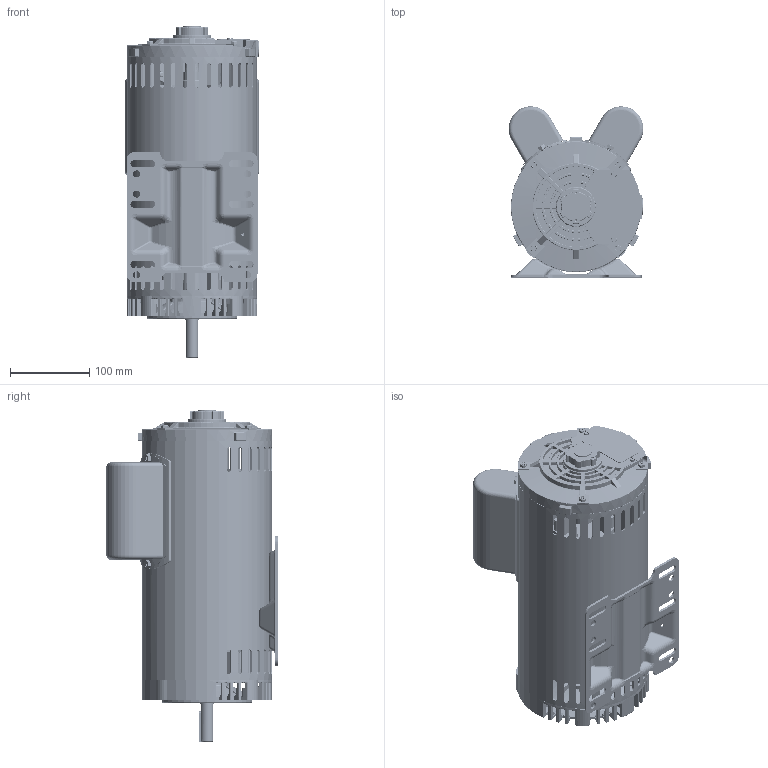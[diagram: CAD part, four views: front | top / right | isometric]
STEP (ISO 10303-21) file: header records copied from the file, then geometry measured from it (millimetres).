
FILE_DESCRIPTION (( 'STEP AP203' ), '1' );
FILE_NAME ('OPE 3-18-56CB.STEP', '2025-03-04T07:53:59', ( 'User' ), ( 'China' ), 'SwSTEP 2.0', 'SolidWorks 2019', '' );
FILE_SCHEMA (( 'CONFIG_CONTROL_DESIGN' ));
Length unit declared in the file: millimetre
Products named in the file (4): OPE 3-18-56; d; 300lg; OPE 3-18-56CB
Assembly tree (6 placements, depth 2):
  OPE 3-18-56CB
    OPE 3-18-56
    d
    300lg  x4
Bounding box: 169.81 x 215.47 x 418.15 mm (x, y, z)
Volume: 2440596.5 mm3; surface area: 853846.6 mm2
Topology: 26 solids, 29 shells, 4098 faces, 10829 edges, 6739 vertices
Faces by surface type: cylinder 1759, plane 1234, torus 453, bspline 341, cone 207, sphere 104
Entity records: 162238 total; most frequent: CARTESIAN_POINT 73097, ORIENTED_EDGE 19568, DIRECTION 17601, EDGE_CURVE 9784, AXIS2_PLACEMENT_3D 6717, VERTEX_POINT 6120, LINE 4167, VECTOR 4167
